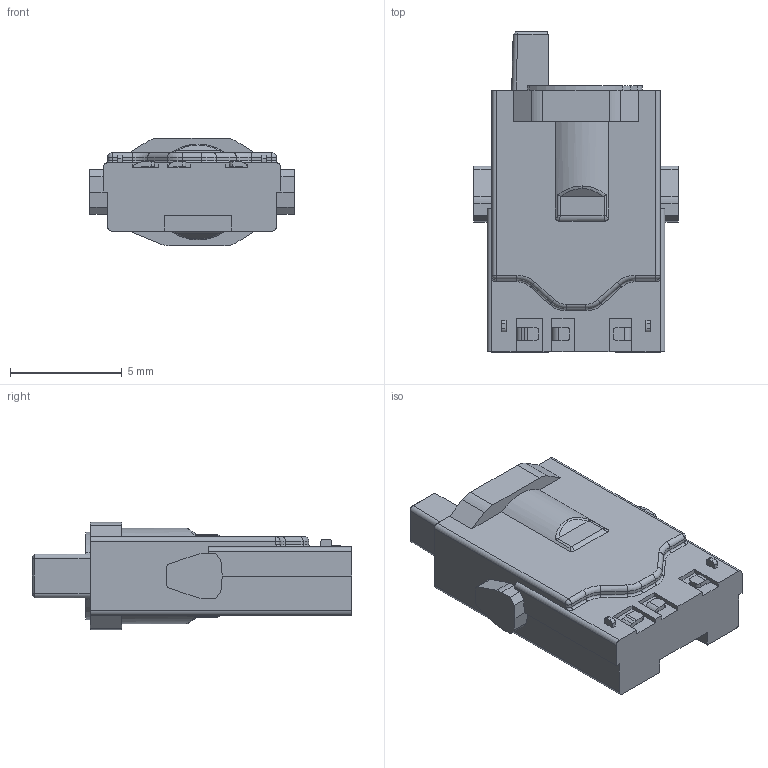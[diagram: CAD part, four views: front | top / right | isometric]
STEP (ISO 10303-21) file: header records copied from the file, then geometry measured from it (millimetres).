
FILE_DESCRIPTION((''),'2;1');
FILE_NAME('DM35A008-05SP','2026-06-29T',('Administrator'),(''),'PRO/ENGINEER BY PARAMETRIC TECHNOLOGY CORPORATION, 2013040','PRO/ENGINEER BY PARAMETRIC TECHNOLOGY CORPORATION, 2013040','');
FILE_SCHEMA(('CONFIG_CONTROL_DESIGN'));
Length unit declared in the file: millimetre
Products named in the file (1): DM35A008-05SP
Bounding box: 9.15 x 14.3 x 4.8 mm (x, y, z)
Volume: 271.6 mm3; surface area: 449.5 mm2
Topology: 1 solids, 1 shells, 299 faces, 815 edges, 530 vertices
Faces by surface type: plane 194, cylinder 81, bspline 12, torus 10, sphere 2
Entity records: 9909 total; most frequent: CARTESIAN_POINT 2290, ORIENTED_EDGE 1630, DIRECTION 1513, EDGE_CURVE 815, VECTOR 599, LINE 599, VERTEX_POINT 530, AXIS2_PLACEMENT_3D 457
